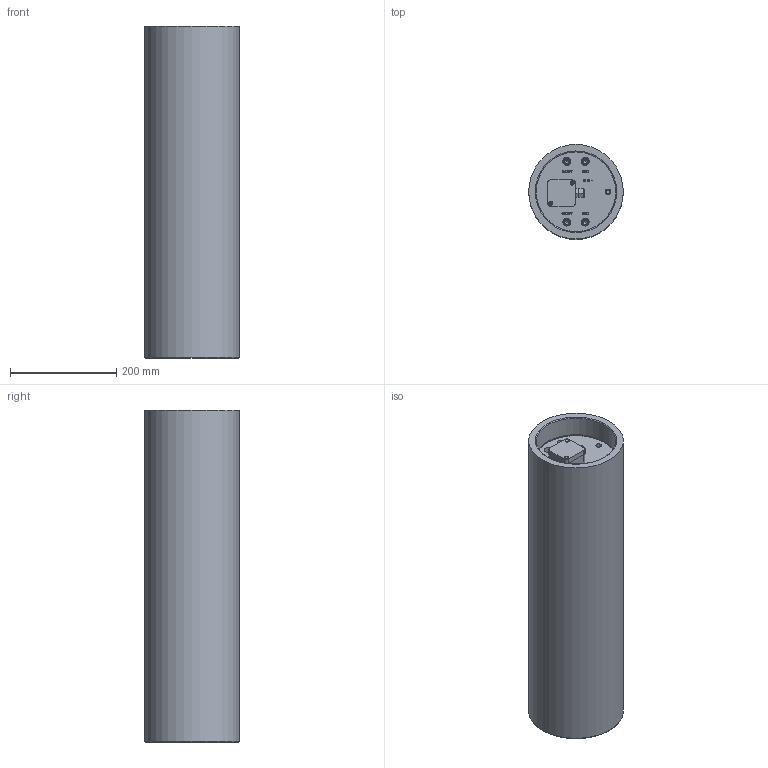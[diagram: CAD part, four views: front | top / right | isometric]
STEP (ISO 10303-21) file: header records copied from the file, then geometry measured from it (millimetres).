
FILE_DESCRIPTION (( 'STEP AP214' ), '1' );
FILE_NAME ('IPMXM500.STEP', '2013-05-10T21:08:32', ( 'Siemens WT' ), ( 'Siemens WT' ), 'SwSTEP 2.0', 'SolidWorks 2012', '' );
FILE_SCHEMA (( 'AUTOMOTIVE_DESIGN' ));
Length unit declared in the file: inch
Products named in the file (7): MX0008; 025 Cord Fitting; Bud PN-1330 Cover; MX0014D; IPMXM500; MX0013D; MX0015E_MX0007-3
Assembly tree (9 placements, depth 2):
  IPMXM500
    MX0015E_MX0007-3
    MX0013D
    MX0014D
    MX0008  x2
    Bud PN-1330 Cover  x2
    025 Cord Fitting  x2
Bounding box: 177.8 x 177.8 x 624.33 mm (x, y, z)
Volume: 5553872.1 mm3; surface area: 831220.5 mm2
Topology: 9 solids, 9 shells, 694 faces, 1748 edges, 1164 vertices
Faces by surface type: plane 350, cylinder 218, bspline 93, cone 26, torus 7
Full cylindrical faces by diameter (mm): 2.286 x2, 3.3 x8, 3.734 x4, 4 x8, 4.3 x4, 4.369 x4, 6.35 x1, 6.528 x2, 6.858 x2, 6.909 x4, 7.87 x4, 7.95 x8, 8.433 x1, 8.89 x2, 9.525 x4, 11.506 x2, 12.217 x8, 12.7 x2, 15.24 x2, 141.605 x2, 149.555 x4, 150.241 x3, 153.873 x2, 177.8 x1
Entity records: 23378 total; most frequent: CARTESIAN_POINT 9708, ORIENTED_EDGE 2666, DIRECTION 2479, EDGE_CURVE 1333, VERTEX_POINT 939, AXIS2_PLACEMENT_3D 840, LINE 799, VECTOR 799
